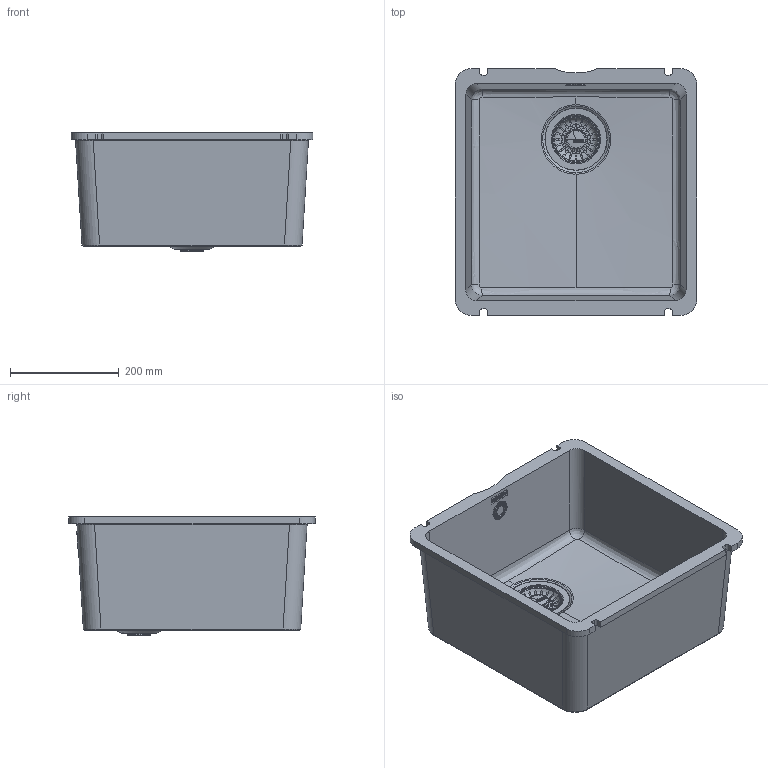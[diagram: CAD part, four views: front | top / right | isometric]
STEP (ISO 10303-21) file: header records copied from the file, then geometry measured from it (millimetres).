
FILE_DESCRIPTION(/* description */ (''),/* implementation_level */ '2;1');
FILE_NAME(/* name */ '3D001_Sinks_KubusX_KXK_110-41',/* time_stamp */ '2026-07-08T15:57:49+02:00',/* author */ (''),/* organization */ (''),/* preprocessor_version */ 'ST-DEVELOPER v19.2',/* originating_system */ 'Rhino 8.31',/* authorisation */ '');
FILE_SCHEMA (('CONFIG_CONTROL_DESIGN'));
Length unit declared in the file: millimetre
Products named in the file (1): Document
Bounding box: 445 x 454 x 217.29 mm (x, y, z)
Volume: 6189107.7 mm3; surface area: 1043252.1 mm2
Topology: 7 solids, 13 shells, 1587 faces, 4261 edges, 2628 vertices
Faces by surface type: plane 656, bspline 617, cylinder 314
Full cylindrical faces by diameter (mm): 8 x1, 11 x1, 12.6 x1, 13.743 x1, 25 x1, 31 x1, 32 x1, 36 x1, 47 x1, 84 x1, 90 x1
Entity records: 86383 total; most frequent: CARTESIAN_POINT 51528, ORIENTED_EDGE 8402, DIRECTION 4790, EDGE_CURVE 4210, AXIS2_PLACEMENT_3D 2880, VERTEX_POINT 2626, B_SPLINE_CURVE_WITH_KNOTS 2090, CIRCLE 1907
